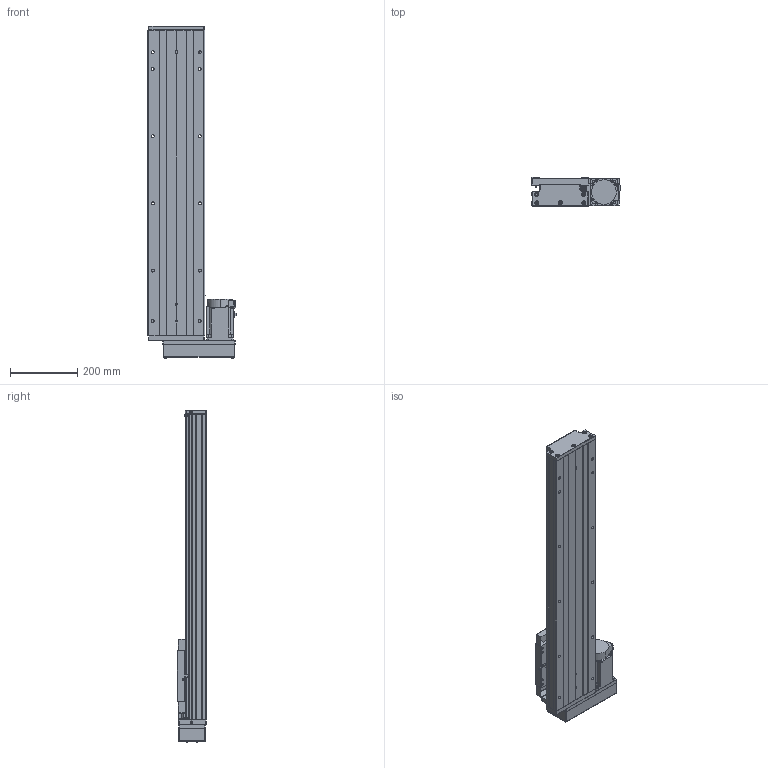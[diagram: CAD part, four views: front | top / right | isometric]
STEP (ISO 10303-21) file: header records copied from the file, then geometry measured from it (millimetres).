
FILE_DESCRIPTION (( 'STEP AP203' ), '1' );
FILE_NAME ('GTH17-650-BR-M75-C4.step', '2023-06-30T13:19:33', ( '微软用户' ), ( '微软中国' ), 'SwSTEP 2.0', 'SolidWorks 2020', '' );
FILE_SCHEMA (( 'CONFIG_CONTROL_DESIGN' ));
Length unit declared in the file: millimetre
Products named in the file (19): GTH17-002_GTH17-002; GBT 70.1-M3℅5; GBT 70.2-M4¡Á45_M4¡Á35; GTH17-004; GBT77-2000 M3×3; GTH17-015-2_CTHA86-015-2; GTH17-005; GBT 70.1-M6¡Á20_M6¡Á20; GTH17-033; GB1155-6X6; GTH17-031; GTH17-650-BR-M75-C4; CTHA60-017; GBT 70.2-M3¡Á5_M3¡Á6; EE_SX911P_R; す晦芛蹟隊 M3℅5; GTH17-001_650; CTHA60-016; HG-KN73J-S100
Assembly tree (58 placements, depth 2):
  GTH17-650-BR-M75-C4
    GTH17-001_650
    GTH17-002_GTH17-002
    GTH17-004
    GTH17-005
    GB1155-6X6  x2
    CTHA60-017  x3
    EE_SX911P_R  x3
    CTHA60-016  x2
    GBT 70.1-M3℅5  x6
    GBT77-2000 M3×3  x6
    GBT 70.1-M6¡Á20_M6¡Á20  x10
    GTH17-031
    GBT 70.2-M3¡Á5_M3¡Á6  x8
    す晦芛蹟隊 M3℅5  x6
    HG-KN73J-S100
    GBT 70.2-M4¡Á45_M4¡Á35  x4
    GTH17-015-2_CTHA86-015-2
    GTH17-033
Bounding box: 264.3 x 87 x 988.2 mm (x, y, z)
Volume: 8334091.7 mm3; surface area: 1179185.3 mm2
Topology: 61 solids, 61 shells, 2449 faces, 5845 edges, 3619 vertices
Faces by surface type: plane 1310, cylinder 666, cone 297, torus 124, sphere 32, bspline 20
Entity records: 44738 total; most frequent: CARTESIAN_POINT 10366, DIRECTION 6481, ORIENTED_EDGE 6402, EDGE_CURVE 3201, AXIS2_PLACEMENT_3D 2212, VECTOR 2057, LINE 2057, VERTEX_POINT 2031
